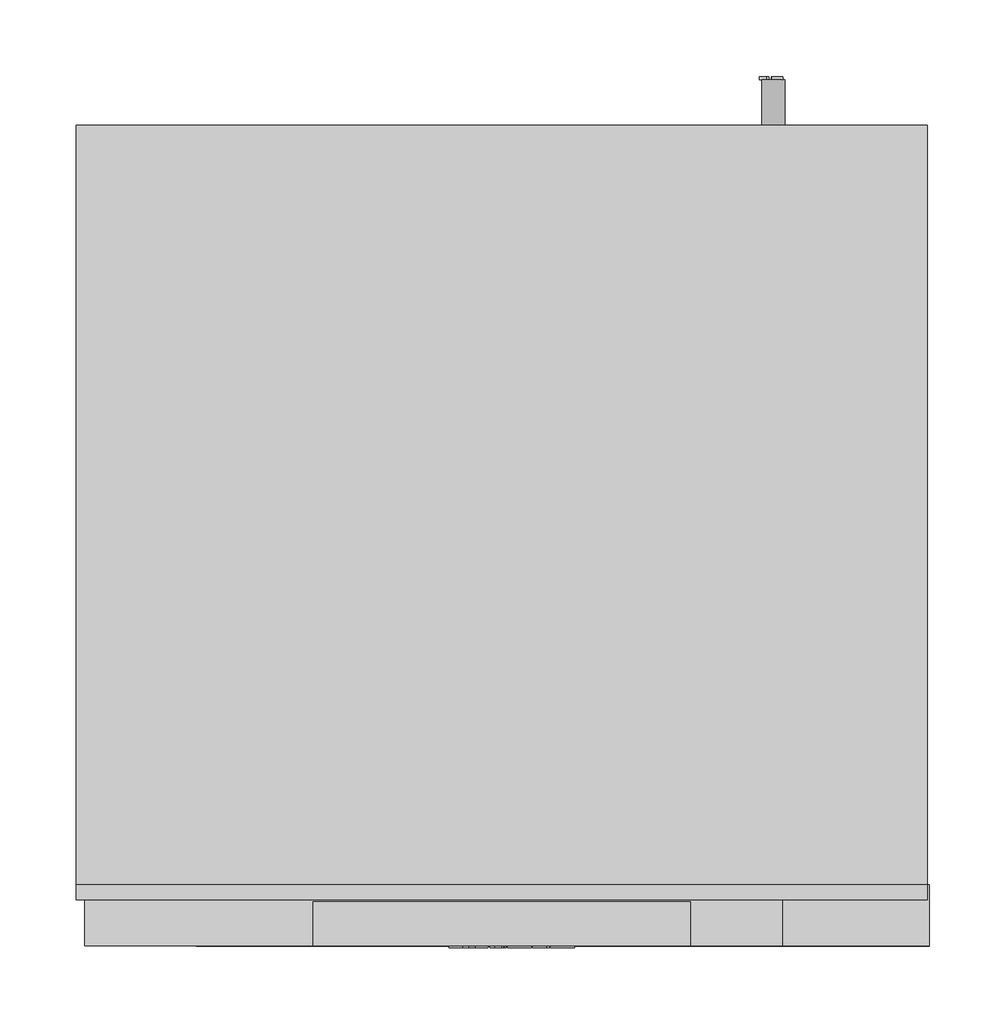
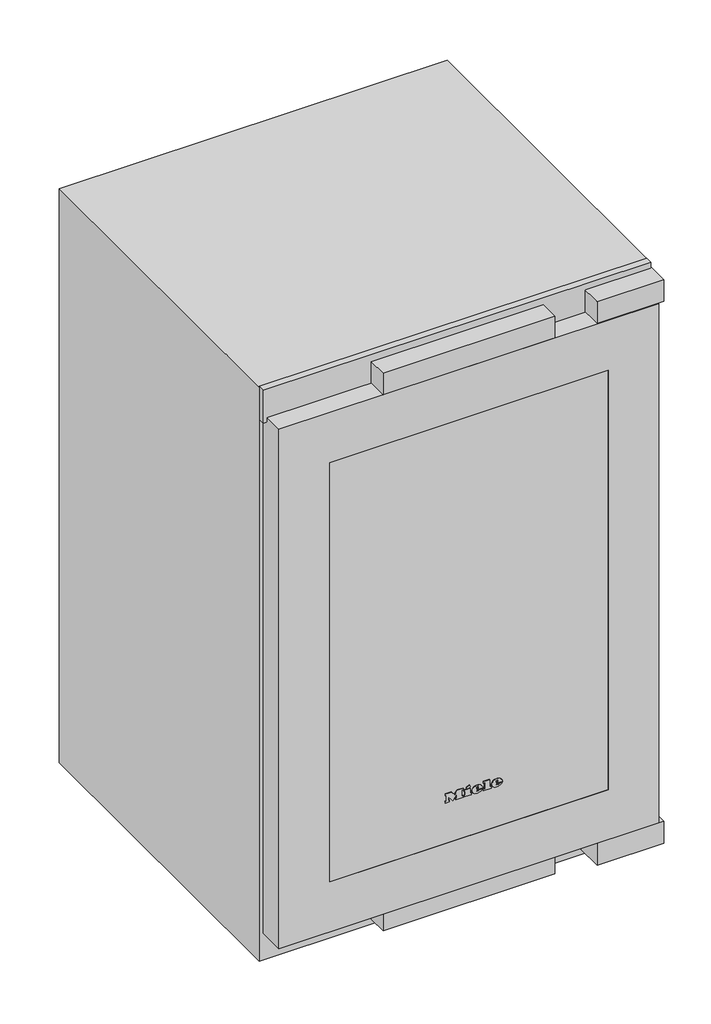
# Not in any storey: 1 proxy.
"""IFC4 building model written with IfcOpenShell, lengths in millimetres."""

from ifc_helpers import new_model, si_unit, origin, place, context, project, spatial, transform, mapped, element, save
from components import specialty_equipment_7821c6c4

model = new_model("IFC4")

# Units and contexts
model_context = context("Model", 3, world=origin())
ifc_project = project(units=[si_unit("LENGTHUNIT", "METRE", prefix="MILLI")], contexts=[model_context])

# Site, building
site = spatial("IfcSite", under=ifc_project)
building = spatial("IfcBuilding", under=site)

# Proxy
placement = place(None, origin())
specialty_equipment_shape = specialty_equipment_7821c6c4(model_context)
element("IfcBuildingElementProxy", 1, Name="12364290_EU1_KWT6422i-1 : 36642202_EU1_12364290_KWT6422i-1", ObjectType="12364290_EU1_KWT6422i-1 : 36642202_EU1_12364290_KWT6422i-1", at=placement, inside=building, context=model_context, shape_type="MappedRepresentation", body=[
    mapped(specialty_equipment_shape, transform((0.0, 0.0, 0.0), x_axis=(1.0, 0.0, 0.0), y_axis=(0.0, 1.0, 0.0), z_axis=(0.0, 0.0, 1.0))),
])

save(model, "model.ifc")
